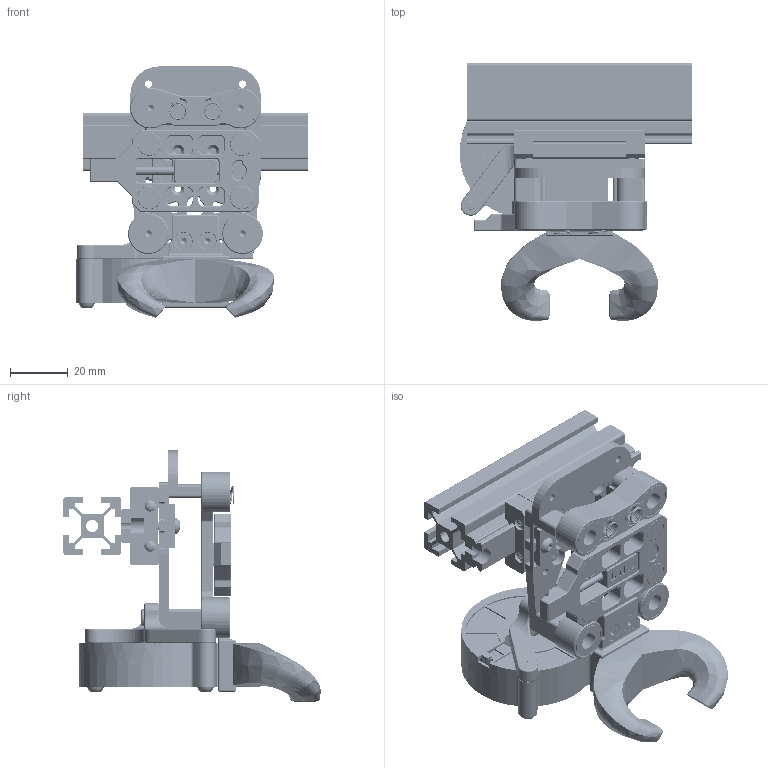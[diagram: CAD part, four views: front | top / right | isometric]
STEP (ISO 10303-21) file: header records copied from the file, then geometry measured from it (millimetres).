
FILE_DESCRIPTION(/* description */ (''),/* implementation_level */ '2;1');
FILE_NAME(/* name */ 'Lineux StealthC Voron CNC Carriage v14.step',/* time_stamp */ '2026-01-31T23:06:14+07:00',/* author */ (''),/* organization */ (''),/* preprocessor_version */ 'ST-DEVELOPER v20.1',/* originating_system */ 'Autodesk Translation Framework v14.24.0.0',/* authorisation */ '');
FILE_SCHEMA (('AUTOMOTIVE_DESIGN { 1 0 10303 214 3 1 1 }'));
Products named in the file (62): Lineux StealthC Voron CNC Carriage; Lineux StealthC Voron CNC Carriage_1; Vitalli Rigid CNC Carriage; Belt Clamp; Belt Clamp_1; M3x6 BHCS; Radial-Cooling-Fan-5015-DC12V v1; turbine; top; bottom; 5015 Mount; m3x5x4mm heat insert; m3 x 20mm bhcs; m3x5x4mm heat insert (1); m3 x 6mm shcs; m3 x 6mm shcs (1); m3 x 20mm bhcs (1); 5015_mount; MGN 12H; PRODUCT_NAME_9 (1)_MGN12H (1)_MGN12 rail (1)_X Axis (MGN12)_Gantry_VO
RON2.4_Assembly(2)_VORON2.4_Assembly.IGS_默认; PRODUCT_NAME_1 (1)_MGN12H (1)_MGN12 rail (1)_X Axis (MGN12)_Gantry_VO
RON2.4_Assembly(2)_VORON2.4_Assembly.IGS_默认; PRODUCT_NAME_5 (1)_MGN12H (1)_MGN12 rail (1)_X Axis (MGN12)_Gantry_VO
RON2.4_Assembly(2)_VORON2.4_Assembly.IGS_默认; PRODUCT_NAME_6 (1)_MGN12H (1)_MGN12 rail (1)_X Axis (MGN12)_Gantry_VO
RON2.4_Assembly(2)_VORON2.4_Assembly.IGS_默认; PRODUCT_NAME_7 (1)_MGN12H (1)_MGN12 rail (1)_X Axis (MGN12)_Gantry_VO
RON2.4_Assembly(2)_VORON2.4_Assembly.IGS_默认; PRODUCT_NAME_4 (1)_MGN12H (1)_MGN12 rail (1)_X Axis (MGN12)_Gantry_VO
RON2.4_Assembly(2)_VORON2.4_Assembly.IGS_默认; PRODUCT_NAME_8 (1)_MGN12H (1)_MGN12 rail (1)_X Axis (MGN12)_Gantry_VO
RON2.4_Assembly(2)_VORON2.4_Assembly.IGS_默认; PRODUCT_NAME_3 (1)_MGN12H (1)_MGN12 rail (1)_X Axis (MGN12)_Gantry_VO
RON2.4_Assembly(2)_VORON2.4_Assembly.IGS_默认; PRODUCT_NAME_2 (1)_MGN12H (1)_MGN12 rail (1)_X Axis (MGN12)_Gantry_VO
RON2.4_Assembly(2)_VORON2.4_Assembly.IGS_默认; mgn 12 rail; 2020 extrusion; Lineux Stealth CNC (3); Lock Plate (5); 8 x 5mm magnet (2) (2) (3); 8 x 5mm magnet (5) (3); 8 x 5mm magnet (1) (2) (3); 8 x 5mm magnet (3) (2) (3); Lock Plate Universal (4); dowel_plug; m3 dowel 40mm (1) (3); Lock Plate (1) (3) ...
Assembly tree (62 placements, depth 5):
  Lineux StealthC Voron CNC Carriage
    Lineux StealthC Voron CNC Carriage_1
      Vitalli Rigid CNC Carriage
        Belt Clamp
          M3x6 BHCS
        Belt Clamp_1
          M3x6 BHCS
      Radial-Cooling-Fan-5015-DC12V v1
        turbine
        top
        bottom
      5015 Mount
        m3x5x4mm heat insert
        m3 x 20mm bhcs
        m3x5x4mm heat insert (1)
        m3 x 6mm shcs
        m3 x 6mm shcs (1)
        m3 x 20mm bhcs (1)
        5015_mount
      MGN 12H
        PRODUCT_NAME_9 (1)_MGN12H (1)_MGN12 rail (1)_X Axis (MGN12)_Gantry_VO
RON2.4_Assembly(2)_VORON2.4_Assembly.IGS_默认
        PRODUCT_NAME_1 (1)_MGN12H (1)_MGN12 rail (1)_X Axis (MGN12)_Gantry_VO
RON2.4_Assembly(2)_VORON2.4_Assembly.IGS_默认
        PRODUCT_NAME_5 (1)_MGN12H (1)_MGN12 rail (1)_X Axis (MGN12)_Gantry_VO
RON2.4_Assembly(2)_VORON2.4_Assembly.IGS_默认
        PRODUCT_NAME_6 (1)_MGN12H (1)_MGN12 rail (1)_X Axis (MGN12)_Gantry_VO
RON2.4_Assembly(2)_VORON2.4_Assembly.IGS_默认
        PRODUCT_NAME_7 (1)_MGN12H (1)_MGN12 rail (1)_X Axis (MGN12)_Gantry_VO
RON2.4_Assembly(2)_VORON2.4_Assembly.IGS_默认
        PRODUCT_NAME_4 (1)_MGN12H (1)_MGN12 rail (1)_X Axis (MGN12)_Gantry_VO
RON2.4_Assembly(2)_VORON2.4_Assembly.IGS_默认
        PRODUCT_NAME_8 (1)_MGN12H (1)_MGN12 rail (1)_X Axis (MGN12)_Gantry_VO
RON2.4_Assembly(2)_VORON2.4_Assembly.IGS_默认
        PRODUCT_NAME_3 (1)_MGN12H (1)_MGN12 rail (1)_X Axis (MGN12)_Gantry_VO
RON2.4_Assembly(2)_VORON2.4_Assembly.IGS_默认
        PRODUCT_NAME_2 (1)_MGN12H (1)_MGN12 rail (1)_X Axis (MGN12)_Gantry_VO
RON2.4_Assembly(2)_VORON2.4_Assembly.IGS_默认
      mgn 12 rail
      2020 extrusion
      Lineux Stealth CNC (3)
        Lock Plate (5)
          8 x 5mm magnet (2) (2) (3)
          8 x 5mm magnet (5) (3)
          8 x 5mm magnet (1) (2) (3)
          8 x 5mm magnet (3) (2) (3)
          Lock Plate Universal (4)
          dowel_plug
          m3 dowel 40mm (1) (3)
          Lock Plate (1) (3)
        Stealth Carrier (5)
          OD8 ID6 SS 3mm Bushing (1) (2)
          OD8 ID6 SS 3mm Bushing (2) (2)
          OD8 ID6 SS 3mm Bushing (3) (2)
          OD8 ID6 SS 3mm Bushing (5)
          bushing_seat_bottom_x2
          bushing_seat_bottom_x2 (1)
          OD5 ID3 15mm SS Bushing (1)
          Stealth Carrier (1) (3)
          bushing_seat_top_left
          bushing_seat_top_right
          spring OD6 ID5 6mm
          spring OD6 ID5 6mm (1)
          m3 x 8mm fhcs (3) (3)
          m3 x 8mm fhcs (2) (3)
          m3 x 8mm fhcs (6)
          m3 x 8mm fhcs (1) (3)
      Duct
        m3 x 8mm fhcs (7)
Bounding box: 80.2 x 88.85 x 86.66 mm (x, y, z)
Volume: 75985.5 mm3; surface area: 88581.9 mm2
Topology: 57 solids, 57 shells, 3115 faces, 8021 edges, 5032 vertices
Faces by surface type: plane 1366, cylinder 1108, cone 316, bspline 249, torus 51, sphere 25
Full cylindrical faces by diameter (mm): 2 x2, 2.2 x6, 2.356 x80, 2.459 x8, 2.5 x14, 2.529 x14, 2.893 x2, 2.927 x78, 3 x101, 3.2 x8, 3.4 x2, 3.5 x2, 4.2 x9, 4.393 x4, 4.5 x6, 5 x3, 5.58 x2, 5.6 x2, 5.65 x2, 5.68 x2, 5.7 x4, 6 x16, 6.5 x4, 8 x20, 11.6 x2, 12 x2, 14 x2, 22.8 x1, 24.5 x1, 32 x1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
Entity records: 195825 total; most frequent: CARTESIAN_POINT 119910, ORIENTED_EDGE 15938, DIRECTION 15075, EDGE_CURVE 7969, AXIS2_PLACEMENT_3D 5507, VERTEX_POINT 5014, LINE 4061, VECTOR 4061
